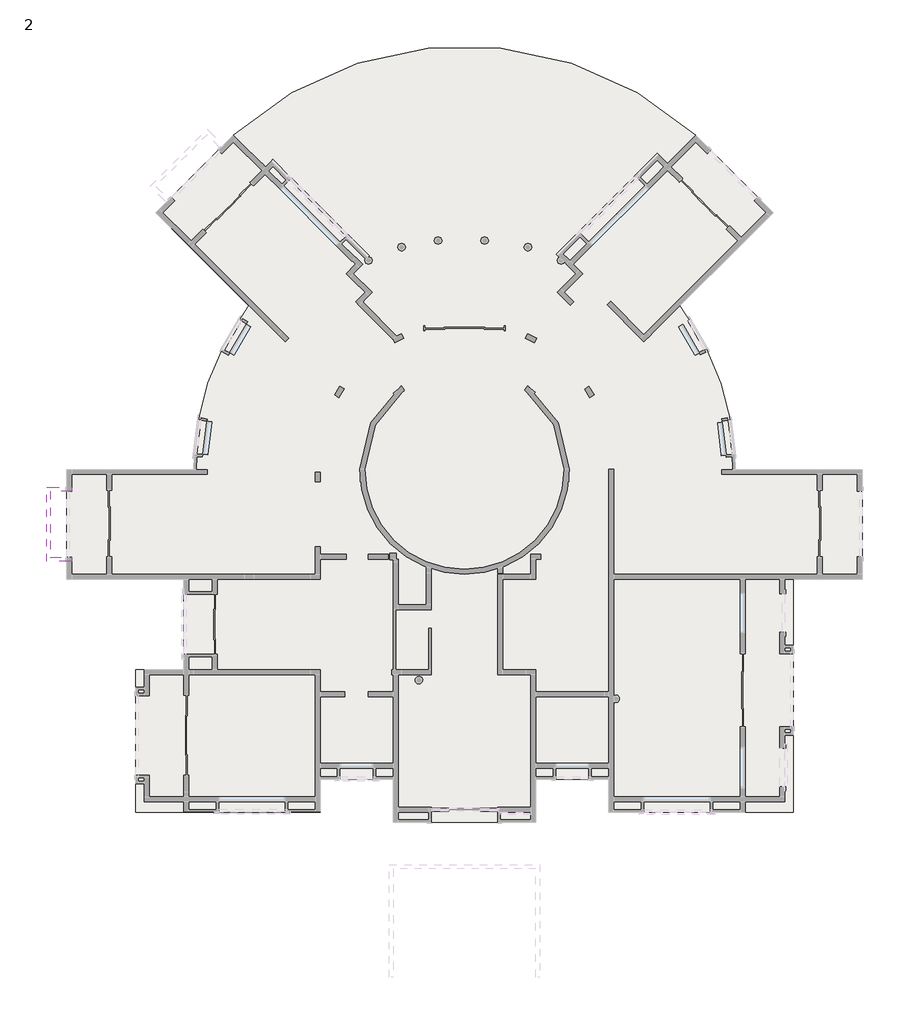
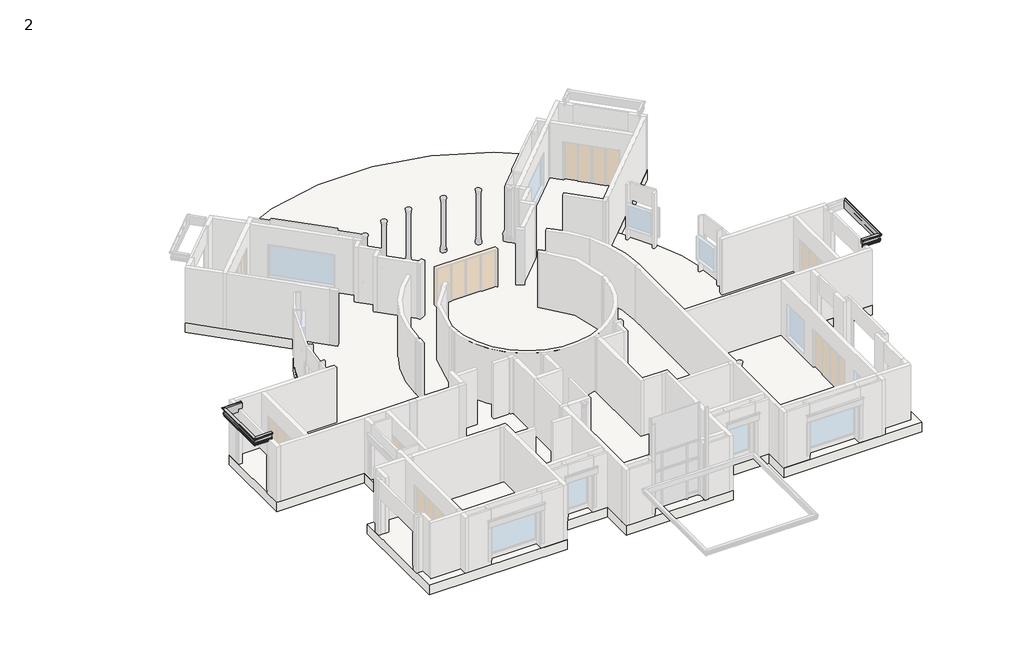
# One storey, part 6 of 10: 1 proxy, 1 slab.
"""IFC4 building model written with IfcOpenShell, lengths in millimetres."""

from ifc_helpers import new_model, si_unit, point, frame, frame_2d, origin, place, context, project, spatial, polyline, circle_curve, ellipse_curve, trimmed, segment, composite_curve, outline, extrude, element, save
from ifc_brep_helpers import plane_surface, cylinder_surface, revolved_surface, advanced_brep

model = new_model("IFC4")

# Units and contexts
model_context = context("Model", 3, world=origin())
ifc_project = project(units=[si_unit("LENGTHUNIT", "METRE", prefix="MILLI")], contexts=[model_context])

# Site, building, storey
site = spatial("IfcSite", under=ifc_project)
building = spatial("IfcBuilding", under=site)
storey = spatial("IfcBuildingStorey", under=building, Name="2", Elevation=0.0)

# Proxy
placement = place(None, origin())
element("IfcBuildingElementProxy", 1, Name="balcony", ObjectType="balcony", at=placement, inside=storey, context=model_context, shape_type="AdvancedBrep", body=[
    advanced_brep(
    [(-26408.9780453, -304.5181763, 3911.6), (-26408.9780453, -456.9181763, 3911.6), (-26408.9780453, -456.9181763, 3403.6), (-26408.9780453, -379.0293288, 3403.6), (-26408.9780453, -371.0929997, 3422.2075227), (-26408.9780453, -358.3019534, 3462.450942), (-26408.9780453, -358.3019534, 3486.15), (-26408.9780453, -358.3019534, 3524.25), (-26408.9780453, -358.3019534, 3562.35), (-26408.9780453, -358.3019534, 3594.1), (-26408.9780453, -379.0293288, 3594.1), (-26408.9780453, -379.0293288, 3797.3), (-26408.9780453, -321.8793288, 3797.3), (-26408.9780453, -324.962219, 3810.2253558), (-26408.9780453, -317.2181763, 3860.8), (-26408.9780453, -317.2181763, 3873.5), (-26408.9780453, -304.5181763, 3873.5), (-27552.1602091, -304.5181763, 3911.6), (-27399.7602091, -456.9181763, 3911.6), (-27399.7602091, -456.9181763, 3403.6), (-27477.6490566, -379.0293288, 3403.6), (-27485.5853857, -371.0929997, 3422.2075227), (-27498.376432, -358.3019534, 3462.450942), (-27498.376432, -358.3019534, 3486.15), (-27498.376432, -358.3019534, 3524.25), (-27498.376432, -358.3019534, 3562.35), (-27498.376432, -358.3019534, 3594.1), (-27477.6490566, -379.0293288, 3594.1), (-27477.6490566, -379.0293288, 3797.3), (-27534.7990566, -321.8793288, 3797.3), (-27531.7161664, -324.962219, 3810.2253558), (-27539.4602091, -317.2181763, 3860.8), (-27539.4602091, -317.2181763, 3873.5), (-27552.1602091, -304.5181763, 3873.5), (-27552.1602091, -3657.3181763, 3911.6), (-27399.7602091, -3504.9181763, 3911.6), (-27399.7602091, -3504.9181763, 3403.6), (-27477.6490566, -3582.8070238, 3403.6), (-27485.5853857, -3590.7433528, 3422.2075227), (-27498.376432, -3603.5343992, 3462.450942), (-27498.376432, -3603.5343992, 3486.15), (-27498.376432, -3603.5343992, 3524.25), (-27498.376432, -3603.5343992, 3562.35), (-27498.376432, -3603.5343992, 3594.1), (-27477.6490566, -3582.8070238, 3594.1), (-27477.6490566, -3582.8070238, 3797.3), (-27534.7990566, -3639.9570238, 3797.3), (-27531.7161664, -3636.8741336, 3810.2253558), (-27539.4602091, -3644.6181763, 3860.8), (-27539.4602091, -3644.6181763, 3873.5), (-27552.1602091, -3657.3181763, 3873.5), (-26408.9780453, -3657.3181763, 3911.6), (-26408.9780453, -3657.3181763, 3873.5), (-26408.9780453, -3644.6181763, 3873.5), (-26408.9780453, -3644.6181763, 3860.8), (-26408.9780453, -3636.8741336, 3810.2253558), (-26408.9780453, -3639.9570238, 3797.3), (-26408.9780453, -3582.8070238, 3797.3), (-26408.9780453, -3582.8070238, 3594.1), (-26408.9780453, -3603.5343992, 3594.1), (-26408.9780453, -3603.5343992, 3562.35), (-26408.9780453, -3603.5343992, 3524.25), (-26408.9780453, -3603.5343992, 3486.15), (-26408.9780453, -3603.5343992, 3462.450942), (-26408.9780453, -3590.7433528, 3422.2075227), (-26408.9780453, -3582.8070238, 3403.6), (-26408.9780453, -3504.9181763, 3403.6), (-26408.9780453, -3504.9181763, 3911.6)],
    [
        (0, 1),
        (1, 2),
        (2, 3),
        (3, 4, circle_curve(frame((-26408.9780453, -375.5798806, 3413.125), z_axis=(1.0, 0.0, 0.0), x_axis=(0.0, 1.0, 0.0)), 10.1303661)),
        (4, 5, circle_curve(frame((-26408.9780453, -361.6336904, 3441.3554326), z_axis=(-1.0, 0.0, 0.0), x_axis=(0.0, 1.0, 0.0)), 21.3569892)),
        (5, 6),
        (6, 7, circle_curve(frame((-26408.9780453, -358.3019534, 3505.2), z_axis=(1.0, 0.0, 0.0), x_axis=(0.0, 1.0, 0.0)), 19.05)),
        (7, 8),
        (8, 9, circle_curve(frame((-26408.9780453, -354.5374309, 3578.225), z_axis=(1.0, 0.0, 0.0), x_axis=(0.0, 1.0, 0.0)), 16.3152461)),
        (9, 10),
        (10, 11),
        (11, 12),
        (12, 13, circle_curve(frame((-26408.9780453, -326.1227563, 3803.1182148), z_axis=(1.0, 0.0, 0.0), x_axis=(0.0, 1.0, 0.0)), 7.2012707)),
        (13, 14, circle_curve(frame((-26408.9780453, -320.8392823, 3835.4742575), z_axis=(-1.0, 0.0, 0.0), x_axis=(0.0, 1.0, 0.0)), 25.5833079)),
        (14, 15),
        (15, 16),
        (16, 0, circle_curve(frame((-26408.9780453, -304.5181763, 3892.55), z_axis=(1.0, 0.0, 0.0), x_axis=(0.0, 1.0, 0.0)), 19.05)),
        (0, 17),
        (17, 18),
        (18, 1),
        (18, 19),
        (19, 2),
        (19, 20),
        (20, 3),
        (20, 21, ellipse_curve(frame((-27481.0985048, -375.5798806, 3413.125), z_axis=(0.7071067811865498, 0.7071067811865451, 0.0), x_axis=(0.7071067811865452, -0.7071067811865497, 0.0)), 14.3265012, 10.1303661)),
        (21, 4),
        (21, 22, ellipse_curve(frame((-27495.044695, -361.6336904, 3441.3554326), z_axis=(-0.7071067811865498, -0.7071067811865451, 0.0), x_axis=(-0.7071067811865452, 0.7071067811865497, 0.0)), 30.2033438, 21.3569892)),
        (22, 5),
        (22, 23),
        (23, 6),
        (23, 24, ellipse_curve(frame((-27498.376432, -358.3019534, 3505.2), z_axis=(0.7071067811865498, 0.7071067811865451, 0.0), x_axis=(0.7071067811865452, -0.7071067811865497, 0.0)), 26.9407684, 19.05)),
        (24, 7),
        (24, 25),
        (25, 8),
        (25, 26, ellipse_curve(frame((-27502.1409545, -354.5374309, 3578.225), z_axis=(0.7071067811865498, 0.7071067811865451, 0.0), x_axis=(0.7071067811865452, -0.7071067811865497, 0.0)), 23.0732423, 16.3152461)),
        (26, 9),
        (26, 27),
        (27, 10),
        (27, 28),
        (28, 11),
        (28, 29),
        (29, 12),
        (29, 30, ellipse_curve(frame((-27530.5556291, -326.1227563, 3803.1182148), z_axis=(0.7071067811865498, 0.7071067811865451, 0.0), x_axis=(0.7071067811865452, -0.7071067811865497, 0.0)), 10.1841347, 7.2012707)),
        (30, 13),
        (30, 31, ellipse_curve(frame((-27535.8391031, -320.8392823, 3835.4742575), z_axis=(-0.7071067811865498, -0.7071067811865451, 0.0), x_axis=(-0.7071067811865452, 0.7071067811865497, 0.0)), 36.180261, 25.5833079)),
        (31, 14),
        (31, 32),
        (32, 15),
        (32, 33),
        (33, 16),
        (33, 17, ellipse_curve(frame((-27552.1602091, -304.5181763, 3892.55), z_axis=(0.7071067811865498, 0.7071067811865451, 0.0), x_axis=(0.7071067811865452, -0.7071067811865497, 0.0)), 26.9407684, 19.05)),
        (17, 34),
        (34, 35),
        (35, 18),
        (35, 36),
        (36, 19),
        (36, 37),
        (37, 20),
        (37, 38, ellipse_curve(frame((-27481.0985048, -3586.256472, 3413.125), z_axis=(-0.7071067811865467, 0.7071067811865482, 0.0), x_axis=(0.7071067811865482, 0.7071067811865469, 0.0)), 14.3265012, 10.1303661)),
        (38, 21),
        (38, 39, ellipse_curve(frame((-27495.044695, -3600.2026621, 3441.3554326), z_axis=(0.7071067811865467, -0.7071067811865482, 0.0), x_axis=(-0.7071067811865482, -0.7071067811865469, 0.0)), 30.2033438, 21.3569892)),
        (39, 22),
        (39, 40),
        (40, 23),
        (40, 41, ellipse_curve(frame((-27498.376432, -3603.5343992, 3505.2), z_axis=(-0.7071067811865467, 0.7071067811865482, 0.0), x_axis=(0.7071067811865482, 0.7071067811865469, 0.0)), 26.9407684, 19.05)),
        (41, 24),
        (41, 42),
        (42, 25),
        (42, 43, ellipse_curve(frame((-27502.1409545, -3607.2989217, 3578.225), z_axis=(-0.7071067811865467, 0.7071067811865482, 0.0), x_axis=(0.7071067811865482, 0.7071067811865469, 0.0)), 23.0732423, 16.3152461)),
        (43, 26),
        (43, 44),
        (44, 27),
        (44, 45),
        (45, 28),
        (45, 46),
        (46, 29),
        (46, 47, ellipse_curve(frame((-27530.5556291, -3635.7135963, 3803.1182148), z_axis=(-0.7071067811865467, 0.7071067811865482, 0.0), x_axis=(0.7071067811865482, 0.7071067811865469, 0.0)), 10.1841347, 7.2012707)),
        (47, 30),
        (47, 48, ellipse_curve(frame((-27535.8391031, -3640.9970702, 3835.4742575), z_axis=(0.7071067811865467, -0.7071067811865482, 0.0), x_axis=(-0.7071067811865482, -0.7071067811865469, 0.0)), 36.180261, 25.5833079)),
        (48, 31),
        (48, 49),
        (49, 32),
        (49, 50),
        (50, 33),
        (50, 34, ellipse_curve(frame((-27552.1602091, -3657.3181763, 3892.55), z_axis=(-0.7071067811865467, 0.7071067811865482, 0.0), x_axis=(0.7071067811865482, 0.7071067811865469, 0.0)), 26.9407684, 19.05)),
        (51, 52, circle_curve(frame((-26408.9780453, -3657.3181763, 3892.55), z_axis=(1.0, 0.0, 0.0), x_axis=(0.0, -1.0, 0.0)), 19.05)),
        (52, 53),
        (53, 54),
        (54, 55, circle_curve(frame((-26408.9780453, -3640.9970702, 3835.4742575), z_axis=(-1.0, 0.0, 0.0), x_axis=(0.0, -1.0, 0.0)), 25.5833079)),
        (55, 56, circle_curve(frame((-26408.9780453, -3635.7135963, 3803.1182148), z_axis=(1.0, 0.0, 0.0), x_axis=(0.0, -1.0, 0.0)), 7.2012707)),
        (56, 57),
        (57, 58),
        (58, 59),
        (59, 60, circle_curve(frame((-26408.9780453, -3607.2989217, 3578.225), z_axis=(1.0, 0.0, 0.0), x_axis=(0.0, -1.0, 0.0)), 16.3152461)),
        (60, 61),
        (61, 62, circle_curve(frame((-26408.9780453, -3603.5343992, 3505.2), z_axis=(1.0, 0.0, 0.0), x_axis=(0.0, -1.0, 0.0)), 19.05)),
        (62, 63),
        (63, 64, circle_curve(frame((-26408.9780453, -3600.2026621, 3441.3554326), z_axis=(-1.0, 0.0, 0.0), x_axis=(0.0, -1.0, 0.0)), 21.3569892)),
        (64, 65, circle_curve(frame((-26408.9780453, -3586.256472, 3413.125), z_axis=(1.0, 0.0, 0.0), x_axis=(0.0, -1.0, 0.0)), 10.1303661)),
        (65, 66),
        (66, 67),
        (67, 51),
        (34, 51),
        (67, 35),
        (66, 36),
        (65, 37),
        (64, 38),
        (63, 39),
        (62, 40),
        (61, 41),
        (60, 42),
        (59, 43),
        (58, 44),
        (57, 45),
        (56, 46),
        (55, 47),
        (54, 48),
        (53, 49),
        (52, 50),
    ],
    [
        plane_surface(frame((-26408.9780453, -456.9181763, 2873.2324293), z_axis=(1.0, 0.0, 0.0), x_axis=(0.0, -1.0, 0.0))),
        plane_surface(frame((-26408.9780453, -304.5181763, 3911.6), z_axis=(0.0, 0.0, 1.0), x_axis=(-1.0, 0.0, 0.0))),
        plane_surface(frame((-26408.9780453, -456.9181763, 3911.6), z_axis=(0.0, -1.0, 0.0), x_axis=(-1.0, 0.0, 0.0))),
        plane_surface(frame((-26408.9780453, -456.9181763, 3403.6), z_axis=(0.0, 0.0, -1.0), x_axis=(-1.0, 0.0, 0.0))),
        cylinder_surface(frame((-26408.9780453, -375.5798806, 3413.125), z_axis=(1.0, 0.0, 0.0), x_axis=(0.0, 1.0, 0.0)), 10.1303661),
        revolved_surface(polyline([(-27516.40168421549, -340.2767012, 3441.3554326), (-26408.9780453, -340.2767012, 3441.3554326)]), (-26408.9780453, -361.6336904, 3441.3554326), (-1.0, 0.0, 0.0)),
        plane_surface(frame((-26408.9780453, -358.3019534, 3462.450942), z_axis=(0.0, 1.0, 0.0), x_axis=(-1.0, 0.0, 0.0))),
        cylinder_surface(frame((-26408.9780453, -358.3019534, 3505.2), z_axis=(1.0, 0.0, 0.0), x_axis=(0.0, 1.0, 0.0)), 19.05),
        plane_surface(frame((-26408.9780453, -358.3019534, 3524.25), z_axis=(0.0, 1.0, 0.0), x_axis=(-1.0, 0.0, 0.0))),
        cylinder_surface(frame((-26408.9780453, -354.5374309, 3578.225), z_axis=(1.0, 0.0, 0.0), x_axis=(0.0, 1.0, 0.0)), 16.3152461),
        plane_surface(frame((-26408.9780453, -358.3019534, 3594.1), z_axis=(0.0, 0.0, 1.0), x_axis=(-1.0, 0.0, 0.0))),
        plane_surface(frame((-26408.9780453, -379.0293288, 3594.1), z_axis=(0.0, 1.0, 0.0), x_axis=(-1.0, 0.0, 0.0))),
        plane_surface(frame((-26408.9780453, -379.0293288, 3797.3), z_axis=(0.0, 0.0, -1.0), x_axis=(-1.0, 0.0, 0.0))),
        cylinder_surface(frame((-26408.9780453, -326.1227563, 3803.1182148), z_axis=(1.0, 0.0, 0.0), x_axis=(0.0, 1.0, 0.0)), 7.2012707),
        revolved_surface(polyline([(-27561.4224109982, -295.25597439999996, 3835.4742575), (-26408.9780453, -295.25597439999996, 3835.4742575)]), (-26408.9780453, -320.8392823, 3835.4742575), (-1.0, 0.0, 0.0)),
        plane_surface(frame((-26408.9780453, -317.2181763, 3860.8), z_axis=(0.0, 1.0, 0.0), x_axis=(-1.0, 0.0, 0.0))),
        plane_surface(frame((-26408.9780453, -317.2181763, 3873.5), z_axis=(0.0, 0.0, -1.0), x_axis=(-1.0, 0.0, 0.0))),
        cylinder_surface(frame((-26408.9780453, -304.5181763, 3892.55), z_axis=(1.0, 0.0, 0.0), x_axis=(0.0, 1.0, 0.0)), 19.05),
        plane_surface(frame((-27552.1602091, -304.5181763, 3911.6), z_axis=(0.0, 0.0, 1.0), x_axis=(0.0, -1.0, 0.0))),
        plane_surface(frame((-27399.7602091, -456.9181763, 3911.6), z_axis=(1.0, 0.0, 0.0), x_axis=(0.0, -1.0, 0.0))),
        plane_surface(frame((-27399.7602091, -456.9181763, 3403.6), z_axis=(0.0, 0.0, -1.0), x_axis=(0.0, -1.0, 0.0))),
        cylinder_surface(frame((-27481.0985048, -456.9181763, 3413.125), z_axis=(0.0, 1.0, 0.0), x_axis=(-1.0, 0.0, 0.0)), 10.1303661),
        revolved_surface(polyline([(-27516.401684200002, -3621.5596513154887, 3441.3554326), (-27516.401684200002, -340.27670118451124, 3441.3554326)]), (-27495.044695, -456.9181763, 3441.3554326), (0.0, -1.0, 0.0)),
        plane_surface(frame((-27498.376432, -358.3019534, 3462.450942), z_axis=(-1.0, 0.0, 0.0), x_axis=(0.0, -1.0, 0.0))),
        cylinder_surface(frame((-27498.376432, -456.9181763, 3505.2), z_axis=(0.0, 1.0, 0.0), x_axis=(-1.0, 0.0, 0.0)), 19.05),
        plane_surface(frame((-27498.376432, -358.3019534, 3524.25), z_axis=(-1.0, 0.0, 0.0), x_axis=(0.0, -1.0, 0.0))),
        cylinder_surface(frame((-27502.1409545, -456.9181763, 3578.225), z_axis=(0.0, 1.0, 0.0), x_axis=(-1.0, 0.0, 0.0)), 16.3152461),
        plane_surface(frame((-27498.376432, -358.3019534, 3594.1), z_axis=(0.0, 0.0, 1.0), x_axis=(0.0, -1.0, 0.0))),
        plane_surface(frame((-27477.6490566, -379.0293288, 3594.1), z_axis=(-1.0, 0.0, 0.0), x_axis=(0.0, -1.0, 0.0))),
        plane_surface(frame((-27477.6490566, -379.0293288, 3797.3), z_axis=(0.0, 0.0, -1.0), x_axis=(0.0, -1.0, 0.0))),
        cylinder_surface(frame((-27530.5556291, -456.9181763, 3803.1182148), z_axis=(0.0, 1.0, 0.0), x_axis=(-1.0, 0.0, 0.0)), 7.2012707),
        revolved_surface(polyline([(-27561.422411, -3666.580378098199, 3835.4742575), (-27561.422411, -295.2559744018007, 3835.4742575)]), (-27535.8391031, -456.9181763, 3835.4742575), (0.0, -1.0, 0.0)),
        plane_surface(frame((-27539.4602091, -317.2181763, 3860.8), z_axis=(-1.0, 0.0, 0.0), x_axis=(0.0, -1.0, 0.0))),
        plane_surface(frame((-27539.4602091, -317.2181763, 3873.5), z_axis=(0.0, 0.0, -1.0), x_axis=(0.0, -1.0, 0.0))),
        cylinder_surface(frame((-27552.1602091, -456.9181763, 3892.55), z_axis=(0.0, 1.0, 0.0), x_axis=(-1.0, 0.0, 0.0)), 19.05),
        plane_surface(frame((-26408.9780453, -3504.9181763, 2873.2324293), z_axis=(1.0, 0.0, 0.0), x_axis=(0.0, 1.0, 0.0))),
        plane_surface(frame((-27552.1602091, -3657.3181763, 3911.6), z_axis=(0.0, 0.0, 1.0), x_axis=(1.0, 0.0, 0.0))),
        plane_surface(frame((-27399.7602091, -3504.9181763, 3911.6), z_axis=(0.0, 1.0, 0.0), x_axis=(1.0, 0.0, 0.0))),
        plane_surface(frame((-27399.7602091, -3504.9181763, 3403.6), z_axis=(0.0, 0.0, -1.0), x_axis=(1.0, 0.0, 0.0))),
        cylinder_surface(frame((-27399.7602091, -3586.256472, 3413.125), z_axis=(-1.0, 0.0, 0.0), x_axis=(0.0, -1.0, 0.0)), 10.1303661),
        revolved_surface(polyline([(-26408.9780453, -3621.5596513, 3441.3554326), (-27516.40168421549, -3621.5596513, 3441.3554326)]), (-27399.7602091, -3600.2026621, 3441.3554326), (1.0, 0.0, 0.0)),
        plane_surface(frame((-27498.376432, -3603.5343992, 3462.450942), z_axis=(0.0, -1.0, 0.0), x_axis=(1.0, 0.0, 0.0))),
        cylinder_surface(frame((-27399.7602091, -3603.5343992, 3505.2), z_axis=(-1.0, 0.0, 0.0), x_axis=(0.0, -1.0, 0.0)), 19.05),
        plane_surface(frame((-27498.376432, -3603.5343992, 3524.25), z_axis=(0.0, -1.0, 0.0), x_axis=(1.0, 0.0, 0.0))),
        cylinder_surface(frame((-27399.7602091, -3607.2989217, 3578.225), z_axis=(-1.0, 0.0, 0.0), x_axis=(0.0, -1.0, 0.0)), 16.3152461),
        plane_surface(frame((-27498.376432, -3603.5343992, 3594.1), z_axis=(0.0, 0.0, 1.0), x_axis=(1.0, 0.0, 0.0))),
        plane_surface(frame((-27477.6490566, -3582.8070238, 3594.1), z_axis=(0.0, -1.0, 0.0), x_axis=(1.0, 0.0, 0.0))),
        plane_surface(frame((-27477.6490566, -3582.8070238, 3797.3), z_axis=(0.0, 0.0, -1.0), x_axis=(1.0, 0.0, 0.0))),
        cylinder_surface(frame((-27399.7602091, -3635.7135963, 3803.1182148), z_axis=(-1.0, 0.0, 0.0), x_axis=(0.0, -1.0, 0.0)), 7.2012707),
        revolved_surface(polyline([(-26408.9780453, -3666.5803781, 3835.4742575), (-27561.4224109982, -3666.5803781, 3835.4742575)]), (-27399.7602091, -3640.9970702, 3835.4742575), (1.0, 0.0, 0.0)),
        plane_surface(frame((-27539.4602091, -3644.6181763, 3860.8), z_axis=(0.0, -1.0, 0.0), x_axis=(1.0, 0.0, 0.0))),
        plane_surface(frame((-27539.4602091, -3644.6181763, 3873.5), z_axis=(0.0, 0.0, -1.0), x_axis=(1.0, 0.0, 0.0))),
        cylinder_surface(frame((-27399.7602091, -3657.3181763, 3892.55), z_axis=(-1.0, 0.0, 0.0), x_axis=(0.0, -1.0, 0.0)), 19.05),
    ],
    [
        (0, [[1, 2, 3, 4, 5, 6, 7, 8, 9, 10, 11, 12, 13, 14, 15, 16, 17]]),
        (1, [[-1, 18, 19, 20]]),
        (2, [[-2, -20, 21, 22]]),
        (3, [[-3, -22, 23, 24]]),
        (4, [[-4, -24, 25, 26]]),
        (5, [[-5, -26, 27, 28]]),
        (6, [[-6, -28, 29, 30]]),
        (7, [[-7, -30, 31, 32]]),
        (8, [[-8, -32, 33, 34]]),
        (9, [[-9, -34, 35, 36]]),
        (10, [[-10, -36, 37, 38]]),
        (11, [[-11, -38, 39, 40]]),
        (12, [[-12, -40, 41, 42]]),
        (13, [[-13, -42, 43, 44]]),
        (14, [[-14, -44, 45, 46]]),
        (15, [[-15, -46, 47, 48]]),
        (16, [[-16, -48, 49, 50]]),
        (17, [[-17, -50, 51, -18]]),
        (18, [[-19, 52, 53, 54]]),
        (19, [[-21, -54, 55, 56]]),
        (20, [[-23, -56, 57, 58]]),
        (21, [[-25, -58, 59, 60]]),
        (22, [[-27, -60, 61, 62]]),
        (23, [[-29, -62, 63, 64]]),
        (24, [[-31, -64, 65, 66]]),
        (25, [[-33, -66, 67, 68]]),
        (26, [[-35, -68, 69, 70]]),
        (27, [[-37, -70, 71, 72]]),
        (28, [[-39, -72, 73, 74]]),
        (29, [[-41, -74, 75, 76]]),
        (30, [[-43, -76, 77, 78]]),
        (31, [[-45, -78, 79, 80]]),
        (32, [[-47, -80, 81, 82]]),
        (33, [[-49, -82, 83, 84]]),
        (34, [[-51, -84, 85, -52]]),
        (35, [[86, 87, 88, 89, 90, 91, 92, 93, 94, 95, 96, 97, 98, 99, 100, 101, 102]]),
        (36, [[-53, 103, -102, 104]]),
        (37, [[-55, -104, -101, 105]]),
        (38, [[-57, -105, -100, 106]]),
        (39, [[-59, -106, -99, 107]]),
        (40, [[-61, -107, -98, 108]]),
        (41, [[-63, -108, -97, 109]]),
        (42, [[-65, -109, -96, 110]]),
        (43, [[-67, -110, -95, 111]]),
        (44, [[-69, -111, -94, 112]]),
        (45, [[-71, -112, -93, 113]]),
        (46, [[-73, -113, -92, 114]]),
        (47, [[-75, -114, -91, 115]]),
        (48, [[-77, -115, -90, 116]]),
        (49, [[-79, -116, -89, 117]]),
        (50, [[-81, -117, -88, 118]]),
        (51, [[-83, -118, -87, 119]]),
        (52, [[-85, -119, -86, -103]]),
    ],
),
    advanced_brep(
    [(9632.7049094, -3884.8770415, 3911.6), (9632.7049094, -3732.4770415, 3911.6), (9632.7049094, -3732.4770415, 3403.6), (9632.7049094, -3810.365889, 3403.6), (9632.7049094, -3818.3022181, 3422.2075227), (9632.7049094, -3831.0932644, 3462.450942), (9632.7049094, -3831.0932644, 3486.15), (9632.7049094, -3831.0932644, 3524.25), (9632.7049094, -3831.0932644, 3562.35), (9632.7049094, -3831.0932644, 3594.1), (9632.7049094, -3810.365889, 3594.1), (9632.7049094, -3810.365889, 3797.3), (9632.7049094, -3867.515889, 3797.3), (9632.7049094, -3864.4329988, 3810.2253558), (9632.7049094, -3872.1770415, 3860.8), (9632.7049094, -3872.1770415, 3873.5), (9632.7049094, -3884.8770415, 3873.5), (10775.7049094, -3884.8770415, 3911.6), (10623.3049094, -3732.4770415, 3911.6), (10623.3049094, -3732.4770415, 3403.6), (10701.1937569, -3810.365889, 3403.6), (10709.130086, -3818.3022181, 3422.2075227), (10721.9211323, -3831.0932644, 3462.450942), (10721.9211323, -3831.0932644, 3486.15), (10721.9211323, -3831.0932644, 3524.25), (10721.9211323, -3831.0932644, 3562.35), (10721.9211323, -3831.0932644, 3594.1), (10701.1937569, -3810.365889, 3594.1), (10701.1937569, -3810.365889, 3797.3), (10758.3437569, -3867.515889, 3797.3), (10755.2608667, -3864.4329988, 3810.2253558), (10763.0049094, -3872.1770415, 3860.8), (10763.0049094, -3872.1770415, 3873.5), (10775.7049094, -3884.8770415, 3873.5), (10775.7049094, -38.6193311, 3911.6), (10775.7049094, -38.6193311, 3873.5), (10763.0049094, -51.3193311, 3873.5), (10763.0049094, -51.3193311, 3860.8), (10755.2608667, -59.0633738, 3810.2253558), (10758.3437569, -55.9804837, 3797.3), (10701.1937569, -113.1304837, 3797.3), (10701.1937569, -113.1304837, 3594.1), (10721.9211323, -92.4031082, 3594.1), (10721.9211323, -92.4031082, 3562.35), (10721.9211323, -92.4031082, 3524.25), (10721.9211323, -92.4031082, 3486.15), (10721.9211323, -92.4031082, 3462.450942), (10709.130086, -105.1941546, 3422.2075227), (10701.1937569, -113.1304837, 3403.6), (10623.3049094, -191.0193311, 3403.6), (10623.3049094, -191.0193311, 3911.6)],
    [
        (0, 1),
        (1, 2),
        (2, 3),
        (3, 4, circle_curve(frame((9632.7049094, -3813.8153372, 3413.125), z_axis=(-1.0, 0.0, 0.0), x_axis=(0.0, -1.0, 0.0)), 10.1303661)),
        (4, 5, circle_curve(frame((9632.7049094, -3827.7615274, 3441.3554326), z_axis=(1.0, 0.0, 0.0), x_axis=(0.0, -1.0, 0.0)), 21.3569892)),
        (5, 6),
        (6, 7, circle_curve(frame((9632.7049094, -3831.0932644, 3505.2), z_axis=(-1.0, 0.0, 0.0), x_axis=(0.0, -1.0, 0.0)), 19.05)),
        (7, 8),
        (8, 9, circle_curve(frame((9632.7049094, -3834.8577869, 3578.225), z_axis=(-1.0, 0.0, 0.0), x_axis=(0.0, -1.0, 0.0)), 16.3152461)),
        (9, 10),
        (10, 11),
        (11, 12),
        (12, 13, circle_curve(frame((9632.7049094, -3863.2724615, 3803.1182148), z_axis=(-1.0, 0.0, 0.0), x_axis=(0.0, -1.0, 0.0)), 7.2012707)),
        (13, 14, circle_curve(frame((9632.7049094, -3868.5559354, 3835.4742575), z_axis=(1.0, 0.0, 0.0), x_axis=(0.0, -1.0, 0.0)), 25.5833079)),
        (14, 15),
        (15, 16),
        (16, 0, circle_curve(frame((9632.7049094, -3884.8770415, 3892.55), z_axis=(-1.0, 0.0, 0.0), x_axis=(0.0, -1.0, 0.0)), 19.05)),
        (0, 17),
        (17, 18),
        (18, 1),
        (18, 19),
        (19, 2),
        (19, 20),
        (20, 3),
        (20, 21, ellipse_curve(frame((10704.6432051, -3813.8153372, 3413.125), z_axis=(-0.7071067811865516, -0.7071067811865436, 0.0), x_axis=(-0.7071067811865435, 0.7071067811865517, 0.0)), 14.3265012, 10.1303661)),
        (21, 4),
        (21, 22, ellipse_curve(frame((10718.5893953, -3827.7615274, 3441.3554326), z_axis=(0.7071067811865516, 0.7071067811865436, 0.0), x_axis=(0.7071067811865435, -0.7071067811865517, 0.0)), 30.2033438, 21.3569892)),
        (22, 5),
        (22, 23),
        (23, 6),
        (23, 24, ellipse_curve(frame((10721.9211323, -3831.0932644, 3505.2), z_axis=(-0.7071067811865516, -0.7071067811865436, 0.0), x_axis=(-0.7071067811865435, 0.7071067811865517, 0.0)), 26.9407684, 19.05)),
        (24, 7),
        (24, 25),
        (25, 8),
        (25, 26, ellipse_curve(frame((10725.6856548, -3834.8577869, 3578.225), z_axis=(-0.7071067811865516, -0.7071067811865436, 0.0), x_axis=(-0.7071067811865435, 0.7071067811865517, 0.0)), 23.0732423, 16.3152461)),
        (26, 9),
        (26, 27),
        (27, 10),
        (27, 28),
        (28, 11),
        (28, 29),
        (29, 12),
        (29, 30, ellipse_curve(frame((10754.1003294, -3863.2724615, 3803.1182148), z_axis=(-0.7071067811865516, -0.7071067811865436, 0.0), x_axis=(-0.7071067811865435, 0.7071067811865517, 0.0)), 10.1841347, 7.2012707)),
        (30, 13),
        (30, 31, ellipse_curve(frame((10759.3838034, -3868.5559354, 3835.4742575), z_axis=(0.7071067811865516, 0.7071067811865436, 0.0), x_axis=(0.7071067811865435, -0.7071067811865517, 0.0)), 36.180261, 25.5833079)),
        (31, 14),
        (31, 32),
        (32, 15),
        (32, 33),
        (33, 16),
        (33, 17, ellipse_curve(frame((10775.7049094, -3884.8770415, 3892.55), z_axis=(-0.7071067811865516, -0.7071067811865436, 0.0), x_axis=(-0.7071067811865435, 0.7071067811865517, 0.0)), 26.9407684, 19.05)),
        (34, 35, ellipse_curve(frame((10775.7049094, -38.6193311, 3892.55), z_axis=(-0.7071067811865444, 0.7071067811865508, 0.0), x_axis=(-0.7071067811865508, -0.7071067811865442, 0.0)), 26.9407684, 19.05)),
        (35, 36),
        (36, 37),
        (37, 38, ellipse_curve(frame((10759.3838034, -54.9404372, 3835.4742575), z_axis=(0.7071067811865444, -0.7071067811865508, 0.0), x_axis=(0.7071067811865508, 0.7071067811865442, 0.0)), 36.180261, 25.5833079)),
        (38, 39, ellipse_curve(frame((10754.1003294, -60.2239111, 3803.1182148), z_axis=(-0.7071067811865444, 0.7071067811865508, 0.0), x_axis=(-0.7071067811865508, -0.7071067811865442, 0.0)), 10.1841347, 7.2012707)),
        (39, 40),
        (40, 41),
        (41, 42),
        (42, 43, ellipse_curve(frame((10725.6856548, -88.6385858, 3578.225), z_axis=(-0.7071067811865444, 0.7071067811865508, 0.0), x_axis=(-0.7071067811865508, -0.7071067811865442, 0.0)), 23.0732423, 16.3152461)),
        (43, 44),
        (44, 45, ellipse_curve(frame((10721.9211323, -92.4031082, 3505.2), z_axis=(-0.7071067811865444, 0.7071067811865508, 0.0), x_axis=(-0.7071067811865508, -0.7071067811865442, 0.0)), 26.9407684, 19.05)),
        (45, 46),
        (46, 47, ellipse_curve(frame((10718.5893953, -95.7348453, 3441.3554326), z_axis=(0.7071067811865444, -0.7071067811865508, 0.0), x_axis=(0.7071067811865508, 0.7071067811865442, 0.0)), 30.2033438, 21.3569892)),
        (47, 48, ellipse_curve(frame((10704.6432051, -109.6810355, 3413.125), z_axis=(-0.7071067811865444, 0.7071067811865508, 0.0), x_axis=(-0.7071067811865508, -0.7071067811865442, 0.0)), 14.3265012, 10.1303661)),
        (48, 49),
        (49, 50),
        (50, 34),
        (17, 34),
        (50, 18),
        (49, 19),
        (48, 20),
        (47, 21),
        (46, 22),
        (45, 23),
        (44, 24),
        (43, 25),
        (42, 26),
        (41, 27),
        (40, 28),
        (39, 29),
        (38, 30),
        (37, 31),
        (36, 32),
        (35, 33),
    ],
    [
        plane_surface(frame((9632.7049094, -3732.4770415, 2873.2324293), z_axis=(-1.0, 0.0, 0.0), x_axis=(0.0, 1.0, 0.0))),
        plane_surface(frame((9632.7049094, -3884.8770415, 3911.6), z_axis=(0.0, 0.0, 1.0), x_axis=(1.0, 0.0, 0.0))),
        plane_surface(frame((9632.7049094, -3732.4770415, 3911.6), z_axis=(0.0, 1.0, 0.0), x_axis=(1.0, 0.0, 0.0))),
        plane_surface(frame((9632.7049094, -3732.4770415, 3403.6), z_axis=(0.0, 0.0, -1.0), x_axis=(1.0, 0.0, 0.0))),
        cylinder_surface(frame((9632.7049094, -3813.8153372, 3413.125), z_axis=(-1.0, 0.0, 0.0), x_axis=(0.0, -1.0, 0.0)), 10.1303661),
        revolved_surface(polyline([(10739.946384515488, -3849.1185166, 3441.3554326), (9632.7049094, -3849.1185166, 3441.3554326)]), (9632.7049094, -3827.7615274, 3441.3554326), (1.0, 0.0, 0.0)),
        plane_surface(frame((9632.7049094, -3831.0932644, 3462.450942), z_axis=(0.0, -1.0, 0.0), x_axis=(1.0, 0.0, 0.0))),
        cylinder_surface(frame((9632.7049094, -3831.0932644, 3505.2), z_axis=(-1.0, 0.0, 0.0), x_axis=(0.0, -1.0, 0.0)), 19.05),
        plane_surface(frame((9632.7049094, -3831.0932644, 3524.25), z_axis=(0.0, -1.0, 0.0), x_axis=(1.0, 0.0, 0.0))),
        cylinder_surface(frame((9632.7049094, -3834.8577869, 3578.225), z_axis=(-1.0, 0.0, 0.0), x_axis=(0.0, -1.0, 0.0)), 16.3152461),
        plane_surface(frame((9632.7049094, -3831.0932644, 3594.1), z_axis=(0.0, 0.0, 1.0), x_axis=(1.0, 0.0, 0.0))),
        plane_surface(frame((9632.7049094, -3810.365889, 3594.1), z_axis=(0.0, -1.0, 0.0), x_axis=(1.0, 0.0, 0.0))),
        plane_surface(frame((9632.7049094, -3810.365889, 3797.3), z_axis=(0.0, 0.0, -1.0), x_axis=(1.0, 0.0, 0.0))),
        cylinder_surface(frame((9632.7049094, -3863.2724615, 3803.1182148), z_axis=(-1.0, 0.0, 0.0), x_axis=(0.0, -1.0, 0.0)), 7.2012707),
        revolved_surface(polyline([(10784.9671112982, -3894.1392433, 3835.4742575), (9632.7049094, -3894.1392433, 3835.4742575)]), (9632.7049094, -3868.5559354, 3835.4742575), (1.0, 0.0, 0.0)),
        plane_surface(frame((9632.7049094, -3872.1770415, 3860.8), z_axis=(0.0, -1.0, 0.0), x_axis=(1.0, 0.0, 0.0))),
        plane_surface(frame((9632.7049094, -3872.1770415, 3873.5), z_axis=(0.0, 0.0, -1.0), x_axis=(1.0, 0.0, 0.0))),
        cylinder_surface(frame((9632.7049094, -3884.8770415, 3892.55), z_axis=(-1.0, 0.0, 0.0), x_axis=(0.0, -1.0, 0.0)), 19.05),
        plane_surface(frame((10623.3049094, -191.0193311, 3403.6), z_axis=(-0.7071067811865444, 0.7071067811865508, 0.0), x_axis=(-0.7071067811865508, -0.7071067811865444, 0.0))),
        plane_surface(frame((10775.7049094, -3884.8770415, 3911.6), z_axis=(0.0, 0.0, 1.0), x_axis=(0.0, 1.0, 0.0))),
        plane_surface(frame((10623.3049094, -3732.4770415, 3911.6), z_axis=(-1.0, 0.0, 0.0), x_axis=(0.0, 1.0, 0.0))),
        plane_surface(frame((10623.3049094, -3732.4770415, 3403.6), z_axis=(0.0, 0.0, -1.0), x_axis=(0.0, 1.0, 0.0))),
        cylinder_surface(frame((10704.6432051, -3732.4770415, 3413.125), z_axis=(0.0, -1.0, 0.0), x_axis=(1.0, 0.0, 0.0)), 10.1303661),
        revolved_surface(polyline([(10739.9463845, -74.37785608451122, 3441.3554326), (10739.9463845, -3849.1185166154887, 3441.3554326)]), (10718.5893953, -3732.4770415, 3441.3554326), (0.0, 1.0, 0.0)),
        plane_surface(frame((10721.9211323, -3831.0932644, 3462.450942), z_axis=(1.0, 0.0, 0.0), x_axis=(0.0, 1.0, 0.0))),
        cylinder_surface(frame((10721.9211323, -3732.4770415, 3505.2), z_axis=(0.0, -1.0, 0.0), x_axis=(1.0, 0.0, 0.0)), 19.05),
        plane_surface(frame((10721.9211323, -3831.0932644, 3524.25), z_axis=(1.0, 0.0, 0.0), x_axis=(0.0, 1.0, 0.0))),
        cylinder_surface(frame((10725.6856548, -3732.4770415, 3578.225), z_axis=(0.0, -1.0, 0.0), x_axis=(1.0, 0.0, 0.0)), 16.3152461),
        plane_surface(frame((10721.9211323, -3831.0932644, 3594.1), z_axis=(0.0, 0.0, 1.0), x_axis=(0.0, 1.0, 0.0))),
        plane_surface(frame((10701.1937569, -3810.365889, 3594.1), z_axis=(1.0, 0.0, 0.0), x_axis=(0.0, 1.0, 0.0))),
        plane_surface(frame((10701.1937569, -3810.365889, 3797.3), z_axis=(0.0, 0.0, -1.0), x_axis=(0.0, 1.0, 0.0))),
        cylinder_surface(frame((10754.1003294, -3732.4770415, 3803.1182148), z_axis=(0.0, -1.0, 0.0), x_axis=(1.0, 0.0, 0.0)), 7.2012707),
        revolved_surface(polyline([(10784.9671113, -29.357129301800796, 3835.4742575), (10784.9671113, -3894.1392432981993, 3835.4742575)]), (10759.3838034, -3732.4770415, 3835.4742575), (0.0, 1.0, 0.0)),
        plane_surface(frame((10763.0049094, -3872.1770415, 3860.8), z_axis=(1.0, 0.0, 0.0), x_axis=(0.0, 1.0, 0.0))),
        plane_surface(frame((10763.0049094, -3872.1770415, 3873.5), z_axis=(0.0, 0.0, -1.0), x_axis=(0.0, 1.0, 0.0))),
        cylinder_surface(frame((10775.7049094, -3732.4770415, 3892.55), z_axis=(0.0, -1.0, 0.0), x_axis=(1.0, 0.0, 0.0)), 19.05),
    ],
    [
        (0, [[1, 2, 3, 4, 5, 6, 7, 8, 9, 10, 11, 12, 13, 14, 15, 16, 17]]),
        (1, [[-1, 18, 19, 20]]),
        (2, [[-2, -20, 21, 22]]),
        (3, [[-3, -22, 23, 24]]),
        (4, [[-4, -24, 25, 26]]),
        (5, [[-5, -26, 27, 28]]),
        (6, [[-6, -28, 29, 30]]),
        (7, [[-7, -30, 31, 32]]),
        (8, [[-8, -32, 33, 34]]),
        (9, [[-9, -34, 35, 36]]),
        (10, [[-10, -36, 37, 38]]),
        (11, [[-11, -38, 39, 40]]),
        (12, [[-12, -40, 41, 42]]),
        (13, [[-13, -42, 43, 44]]),
        (14, [[-14, -44, 45, 46]]),
        (15, [[-15, -46, 47, 48]]),
        (16, [[-16, -48, 49, 50]]),
        (17, [[-17, -50, 51, -18]]),
        (18, [[52, 53, 54, 55, 56, 57, 58, 59, 60, 61, 62, 63, 64, 65, 66, 67, 68]]),
        (19, [[-19, 69, -68, 70]]),
        (20, [[-21, -70, -67, 71]]),
        (21, [[-23, -71, -66, 72]]),
        (22, [[-25, -72, -65, 73]]),
        (23, [[-27, -73, -64, 74]]),
        (24, [[-29, -74, -63, 75]]),
        (25, [[-31, -75, -62, 76]]),
        (26, [[-33, -76, -61, 77]]),
        (27, [[-35, -77, -60, 78]]),
        (28, [[-37, -78, -59, 79]]),
        (29, [[-39, -79, -58, 80]]),
        (30, [[-41, -80, -57, 81]]),
        (31, [[-43, -81, -56, 82]]),
        (32, [[-45, -82, -55, 83]]),
        (33, [[-47, -83, -54, 84]]),
        (34, [[-49, -84, -53, 85]]),
        (35, [[-51, -85, -52, -69]]),
    ],
),
])

# Slab
element("IfcSlab", 2, ObjectType="610mm SLAB 2", at=placement, inside=storey, context=model_context, shape_type="SweptSolid", body=[
    extrude(outline(composite_curve([segment(trimmed(circle_curve(frame_2d((-8389.2435395, 4083.4788717)), 15863.4632842), [point((-18994.758439, 15880.6192492))], [point((2216.2713599, 15880.6192492))], False, "CARTESIAN"), True, "CONTINUOUS"), segment(polyline([(2216.2713599, 15880.6192492), (5773.1012328, 12323.7893763), (1500.4794478, 8051.1675913)]), True, "CONTINUOUS"), segment(trimmed(circle_curve(frame_2d((-8388.5950906, 536.0156211)), 12420.6), [point((1500.4794478, 8051.1675913))], [point((4032.0045138, 532.8806689))], False, "CARTESIAN"), True, "CONTINUOUS"), segment(polyline([(4032.0045138, 532.8806689), (9861.3049094, 532.8806689), (9861.3049094, -4496.3193311), (6697.9385697, -4496.3193311), (6697.9385697, -15202.4193311), (-1759.1950906, -15202.4193311), (-1759.1950906, -13677.6181763), (-5111.9950906, -13677.6181763), (-5111.9950906, -15659.6193311), (-11665.1950906, -15659.6193311), (-11665.1950906, -13677.6181763), (-15017.9950906, -13677.6181763), (-15017.9950906, -15202.4193311), (-23476.3608197, -15202.4193311), (-23476.3608197, -8649.2193311), (-21266.3950906, -8649.2193311), (-21266.3950906, -4496.3193311), (-26637.5780453, -4496.3193311), (-26637.5780453, 532.8806689), (-20807.5372153, 532.8806689)]), True, "CONTINUOUS"), segment(trimmed(circle_curve(frame_2d((-8501.3447926, 584.336922)), 12306.3), [point((-20807.5372153, 532.8806689))], [point((-18281.0016738, 8054.4996362))], False, "CARTESIAN"), True, "CONTINUOUS"), segment(polyline([(-18281.0016738, 8054.4996362), (-22550.9398629, 12324.4378252), (-18994.758439, 15880.6192492)]), True, "CONTINUOUS")], self_intersect=False)), frame((0.0, 0.0, -609.6), z_axis=(0.0, 0.0, 1.0), x_axis=(1.0, 0.0, 0.0)), (0.0, 0.0, 1.0), 609.6),
])

save(model, "model.ifc")
